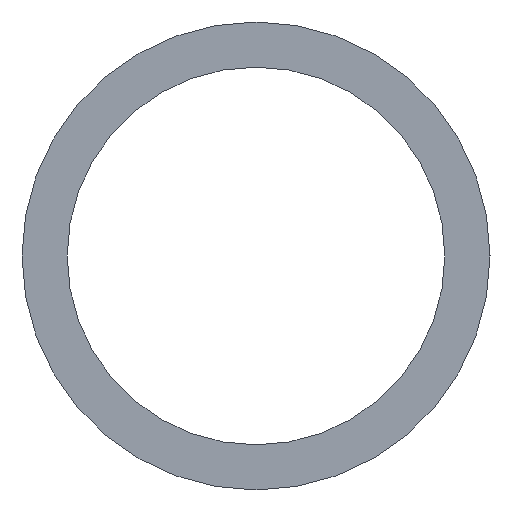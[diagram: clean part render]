
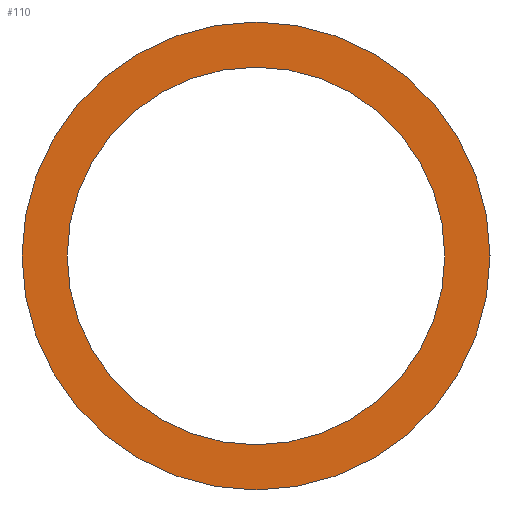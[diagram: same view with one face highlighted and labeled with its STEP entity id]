
A CAD part, left-side view. The second image highlights one B-rep face of the part: STEP entity #110.
In plain terms, the highlighted planar face has unit normal (-1, 0, 0).
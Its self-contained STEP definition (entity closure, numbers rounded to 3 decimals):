
#18 = VERTEX_POINT ( 'NONE', #26 ) ;
#21 = VERTEX_POINT ( 'NONE', #25 ) ;
#23 = VERTEX_POINT ( 'NONE', #47 ) ;
#25 = CARTESIAN_POINT ( 'NONE',  ( 0., 0., -16.075 ) ) ;
#26 = CARTESIAN_POINT ( 'NONE',  ( 0., 0., 16.075 ) ) ;
#35 = CARTESIAN_POINT ( 'NONE',  ( 0., 0., 12.975 ) ) ;
#36 = VERTEX_POINT ( 'NONE', #35 ) ;
#41 = EDGE_LOOP ( 'NONE', ( #66, #67 ) ) ;
#44 = EDGE_LOOP ( 'NONE', ( #64, #65 ) ) ;
#47 = CARTESIAN_POINT ( 'NONE',  ( 0., 0., -12.975 ) ) ;
#64 = ORIENTED_EDGE ( 'NONE', *, *, #123, .F. ) ;
#65 = ORIENTED_EDGE ( 'NONE', *, *, #119, .F. ) ;
#66 = ORIENTED_EDGE ( 'NONE', *, *, #116, .T. ) ;
#67 = ORIENTED_EDGE ( 'NONE', *, *, #124, .T. ) ;
#81 = AXIS2_PLACEMENT_3D ( 'NONE', #144, #153, #154 ) ;
#85 = CIRCLE ( 'NONE', #86, 12.975 ) ;
#86 = AXIS2_PLACEMENT_3D ( 'NONE', #174, #175, #176 ) ;
#87 = CIRCLE ( 'NONE', #100, 16.075 ) ;
#93 = AXIS2_PLACEMENT_3D ( 'NONE', #197, #198, #199 ) ;
#94 = AXIS2_PLACEMENT_3D ( 'NONE', #194, #195, #196 ) ;
#95 = CIRCLE ( 'NONE', #93, 12.975 ) ;
#97 = CIRCLE ( 'NONE', #94, 16.075 ) ;
#100 = AXIS2_PLACEMENT_3D ( 'NONE', #183, #184, #185 ) ;
#110 = ADVANCED_FACE ( 'NONE', ( #149, #150 ), #151, .F. ) ;
#116 = EDGE_CURVE ( 'NONE', #36, #23, #85, .T. ) ;
#119 = EDGE_CURVE ( 'NONE', #21, #18, #87, .T. ) ;
#123 = EDGE_CURVE ( 'NONE', #18, #21, #97, .T. ) ;
#124 = EDGE_CURVE ( 'NONE', #23, #36, #95, .T. ) ;
#144 = CARTESIAN_POINT ( 'NONE',  ( 0., 0., 0. ) ) ;
#149 = FACE_OUTER_BOUND ( 'NONE', #44, .T. ) ;
#150 = FACE_BOUND ( 'NONE', #41, .T. ) ;
#151 = PLANE ( 'NONE',  #81 ) ;
#153 = DIRECTION ( 'NONE',  ( 1., 0., 0. ) ) ;
#154 = DIRECTION ( 'NONE',  ( 0., 0., -1. ) ) ;
#174 = CARTESIAN_POINT ( 'NONE',  ( 0., 0., 0. ) ) ;
#175 = DIRECTION ( 'NONE',  ( 1., 0., 0. ) ) ;
#176 = DIRECTION ( 'NONE',  ( 0., 0., -1. ) ) ;
#183 = CARTESIAN_POINT ( 'NONE',  ( 0., 0., 0. ) ) ;
#184 = DIRECTION ( 'NONE',  ( 1., 0., 0. ) ) ;
#185 = DIRECTION ( 'NONE',  ( 0., 0., -1. ) ) ;
#194 = CARTESIAN_POINT ( 'NONE',  ( 0., 0., 0. ) ) ;
#195 = DIRECTION ( 'NONE',  ( 1., 0., 0. ) ) ;
#196 = DIRECTION ( 'NONE',  ( 0., 0., -1. ) ) ;
#197 = CARTESIAN_POINT ( 'NONE',  ( 0., 0., 0. ) ) ;
#198 = DIRECTION ( 'NONE',  ( 1., 0., 0. ) ) ;
#199 = DIRECTION ( 'NONE',  ( 0., 0., -1. ) ) ;
